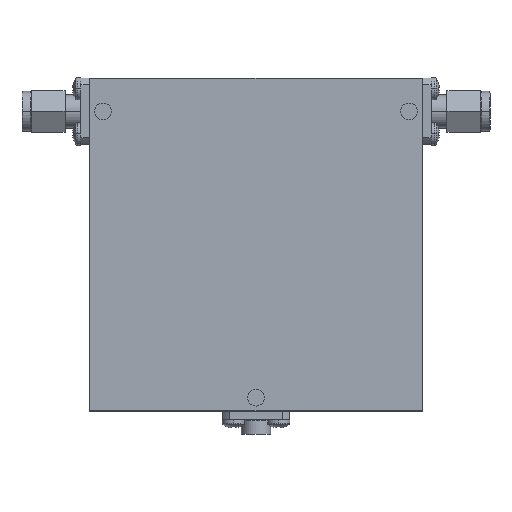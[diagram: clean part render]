
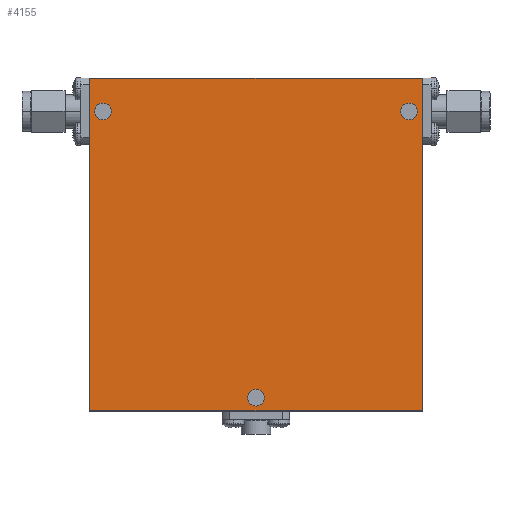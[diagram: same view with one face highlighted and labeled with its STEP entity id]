
A CAD part, top view. The second image highlights one B-rep face of the part: STEP entity #4155.
In plain terms, the highlighted planar face has unit normal (0, 0, 1).
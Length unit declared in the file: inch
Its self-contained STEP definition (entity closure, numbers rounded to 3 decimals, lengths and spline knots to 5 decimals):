
#8 = EDGE_CURVE ( 'NONE', #3945, #4003, #935, .T. ) ;
#13 = ORIENTED_EDGE ( 'NONE', *, *, #593, .F. ) ;
#115 = CARTESIAN_POINT ( 'NONE',  ( 0., -1.15, 0.275 ) ) ;
#120 = DIRECTION ( 'NONE',  ( 1., 0., 0. ) ) ;
#121 = PLANE ( 'NONE',  #3677 ) ;
#125 = DIRECTION ( 'NONE',  ( 0., 0., 1. ) ) ;
#167 = DIRECTION ( 'NONE',  ( 0., 0., 1. ) ) ;
#176 = DIRECTION ( 'NONE',  ( 1., 0., 0. ) ) ;
#334 = DIRECTION ( 'NONE',  ( 0., -1., 0. ) ) ;
#364 = CARTESIAN_POINT ( 'NONE',  ( 1.25, 1.25, 0.275 ) ) ;
#439 = CARTESIAN_POINT ( 'NONE',  ( 1.25, -1.25, 0.275 ) ) ;
#463 = FACE_BOUND ( 'NONE', #2614, .T. ) ;
#500 = EDGE_CURVE ( 'NONE', #1301, #3433, #2524, .T. ) ;
#531 = CARTESIAN_POINT ( 'NONE',  ( 0., 0., 0.275 ) ) ;
#541 = VERTEX_POINT ( 'NONE', #439 ) ;
#593 = EDGE_CURVE ( 'NONE', #3433, #1301, #3522, .T. ) ;
#691 = VERTEX_POINT ( 'NONE', #902 ) ;
#785 = CARTESIAN_POINT ( 'NONE',  ( -1.15, 1., 0.275 ) ) ;
#820 = VECTOR ( 'NONE', #2518, 39.37008 ) ;
#829 = CIRCLE ( 'NONE', #2970, 0.0625 ) ;
#883 = EDGE_CURVE ( 'NONE', #691, #3043, #3518, .T. ) ;
#902 = CARTESIAN_POINT ( 'NONE',  ( -1.25, 1.25, 0.275 ) ) ;
#935 = CIRCLE ( 'NONE', #1516, 0.0625 ) ;
#962 = VERTEX_POINT ( 'NONE', #1048 ) ;
#1012 = ORIENTED_EDGE ( 'NONE', *, *, #8, .F. ) ;
#1017 = ORIENTED_EDGE ( 'NONE', *, *, #4093, .T. ) ;
#1048 = CARTESIAN_POINT ( 'NONE',  ( 0.0625, -1.15, 0.275 ) ) ;
#1072 = DIRECTION ( 'NONE',  ( 0., 1., 0. ) ) ;
#1126 = CARTESIAN_POINT ( 'NONE',  ( -1.25, -1.25, 0.275 ) ) ;
#1147 = CARTESIAN_POINT ( 'NONE',  ( -1.25, 1.25, 0.275 ) ) ;
#1176 = CARTESIAN_POINT ( 'NONE',  ( -1.0875, 1., 0.275 ) ) ;
#1210 = EDGE_CURVE ( 'NONE', #541, #2990, #3679, .T. ) ;
#1268 = FACE_OUTER_BOUND ( 'NONE', #1450, .T. ) ;
#1298 = DIRECTION ( 'NONE',  ( 0., 0., 1. ) ) ;
#1301 = VERTEX_POINT ( 'NONE', #2114 ) ;
#1322 = CARTESIAN_POINT ( 'NONE',  ( -1.25, -1.25, 0.275 ) ) ;
#1419 = DIRECTION ( 'NONE',  ( 1., 0., 0. ) ) ;
#1450 = EDGE_LOOP ( 'NONE', ( #4304, #1017, #3566, #3680 ) ) ;
#1485 = DIRECTION ( 'NONE',  ( 0., 0., 1. ) ) ;
#1501 = EDGE_CURVE ( 'NONE', #4003, #3945, #2567, .T. ) ;
#1516 = AXIS2_PLACEMENT_3D ( 'NONE', #3564, #167, #2539 ) ;
#1549 = CIRCLE ( 'NONE', #3284, 0.0625 ) ;
#1576 = EDGE_LOOP ( 'NONE', ( #13, #3086 ) ) ;
#1710 = AXIS2_PLACEMENT_3D ( 'NONE', #785, #125, #2817 ) ;
#1725 = CARTESIAN_POINT ( 'NONE',  ( -0.0625, -1.15, 0.275 ) ) ;
#1864 = CARTESIAN_POINT ( 'NONE',  ( 0., -1.15, 0.275 ) ) ;
#1909 = DIRECTION ( 'NONE',  ( 0., 0., 1. ) ) ;
#2114 = CARTESIAN_POINT ( 'NONE',  ( -1.2125, 1., 0.275 ) ) ;
#2138 = CARTESIAN_POINT ( 'NONE',  ( 1.15, 1., 0.275 ) ) ;
#2149 = DIRECTION ( 'NONE',  ( 1., 0., 0. ) ) ;
#2206 = DIRECTION ( 'NONE',  ( 1., 0., 0. ) ) ;
#2315 = VECTOR ( 'NONE', #1072, 39.37008 ) ;
#2343 = CARTESIAN_POINT ( 'NONE',  ( -1.25, 1.25, 0.275 ) ) ;
#2375 = ORIENTED_EDGE ( 'NONE', *, *, #3408, .F. ) ;
#2451 = DIRECTION ( 'NONE',  ( 0., 0., 1. ) ) ;
#2518 = DIRECTION ( 'NONE',  ( -1., 0., 0. ) ) ;
#2524 = CIRCLE ( 'NONE', #3595, 0.0625 ) ;
#2539 = DIRECTION ( 'NONE',  ( 1., 0., 0. ) ) ;
#2567 = CIRCLE ( 'NONE', #4074, 0.0625 ) ;
#2614 = EDGE_LOOP ( 'NONE', ( #1012, #3636 ) ) ;
#2817 = DIRECTION ( 'NONE',  ( 1., 0., 0. ) ) ;
#2818 = CARTESIAN_POINT ( 'NONE',  ( 1.2125, 1., 0.275 ) ) ;
#2848 = DIRECTION ( 'NONE',  ( 0., 0., 1. ) ) ;
#2970 = AXIS2_PLACEMENT_3D ( 'NONE', #115, #2451, #2149 ) ;
#2979 = CARTESIAN_POINT ( 'NONE',  ( 1.25, 1.25, 0.275 ) ) ;
#2990 = VERTEX_POINT ( 'NONE', #2979 ) ;
#3043 = VERTEX_POINT ( 'NONE', #1322 ) ;
#3086 = ORIENTED_EDGE ( 'NONE', *, *, #500, .F. ) ;
#3190 = CARTESIAN_POINT ( 'NONE',  ( -1.15, 1., 0.275 ) ) ;
#3247 = EDGE_CURVE ( 'NONE', #962, #3795, #829, .T. ) ;
#3284 = AXIS2_PLACEMENT_3D ( 'NONE', #1864, #1909, #176 ) ;
#3408 = EDGE_CURVE ( 'NONE', #3795, #962, #1549, .T. ) ;
#3411 = FACE_BOUND ( 'NONE', #1576, .T. ) ;
#3433 = VERTEX_POINT ( 'NONE', #1176 ) ;
#3453 = FACE_BOUND ( 'NONE', #4328, .T. ) ;
#3462 = LINE ( 'NONE', #1147, #820 ) ;
#3486 = DIRECTION ( 'NONE',  ( 1., 0., 0. ) ) ;
#3491 = CARTESIAN_POINT ( 'NONE',  ( 1.0875, 1., 0.275 ) ) ;
#3518 = LINE ( 'NONE', #2343, #4047 ) ;
#3522 = CIRCLE ( 'NONE', #1710, 0.0625 ) ;
#3564 = CARTESIAN_POINT ( 'NONE',  ( 1.15, 1., 0.275 ) ) ;
#3566 = ORIENTED_EDGE ( 'NONE', *, *, #883, .T. ) ;
#3595 = AXIS2_PLACEMENT_3D ( 'NONE', #3190, #1298, #1419 ) ;
#3636 = ORIENTED_EDGE ( 'NONE', *, *, #1501, .F. ) ;
#3677 = AXIS2_PLACEMENT_3D ( 'NONE', #531, #1485, #2206 ) ;
#3679 = LINE ( 'NONE', #364, #2315 ) ;
#3680 = ORIENTED_EDGE ( 'NONE', *, *, #4175, .T. ) ;
#3686 = LINE ( 'NONE', #1126, #3954 ) ;
#3795 = VERTEX_POINT ( 'NONE', #1725 ) ;
#3945 = VERTEX_POINT ( 'NONE', #2818 ) ;
#3954 = VECTOR ( 'NONE', #3486, 39.37008 ) ;
#4003 = VERTEX_POINT ( 'NONE', #3491 ) ;
#4047 = VECTOR ( 'NONE', #334, 39.37008 ) ;
#4074 = AXIS2_PLACEMENT_3D ( 'NONE', #2138, #2848, #120 ) ;
#4093 = EDGE_CURVE ( 'NONE', #2990, #691, #3462, .T. ) ;
#4155 = ADVANCED_FACE ( 'NONE', ( #463, #3453, #3411, #1268 ), #121, .T. ) ;
#4175 = EDGE_CURVE ( 'NONE', #3043, #541, #3686, .T. ) ;
#4250 = ORIENTED_EDGE ( 'NONE', *, *, #3247, .F. ) ;
#4304 = ORIENTED_EDGE ( 'NONE', *, *, #1210, .T. ) ;
#4328 = EDGE_LOOP ( 'NONE', ( #4250, #2375 ) ) ;
